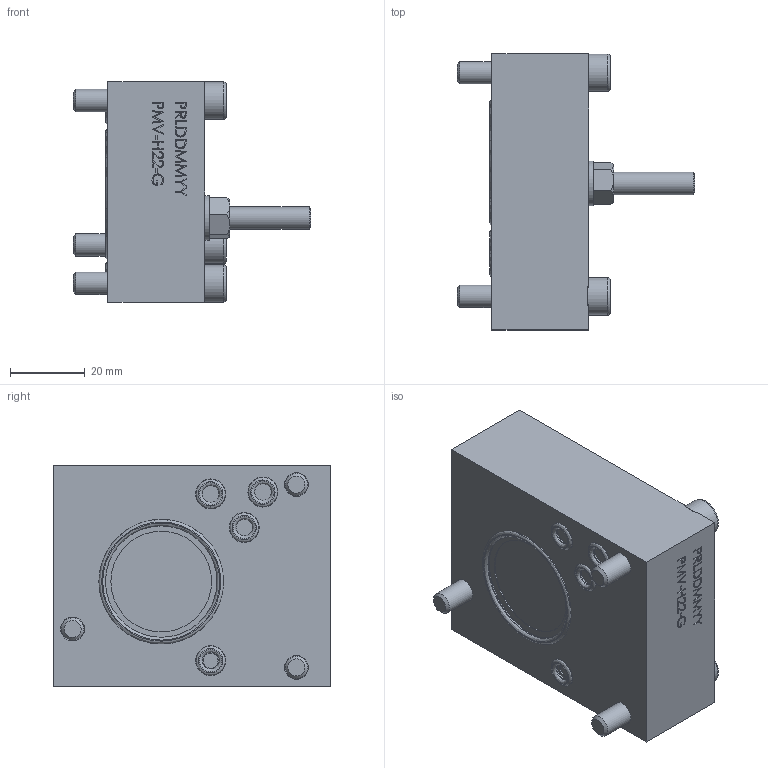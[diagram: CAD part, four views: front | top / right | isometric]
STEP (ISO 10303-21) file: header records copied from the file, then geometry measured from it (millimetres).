
FILE_DESCRIPTION (( 'STEP AP214' ), '1' );
FILE_NAME ('0304551.STEP', '2022-08-02T13:53:37', ( '' ), ( '' ), 'SwSTEP 2.0', 'SolidWorks 2020', '' );
FILE_SCHEMA (( 'AUTOMOTIVE_DESIGN' ));
Length unit declared in the file: millimetre
Products named in the file (8): 0074669_079.3140; 0304551; 0290158_001; 0074697_246.3136; 0294538_002; 0283782_008; 0290158_012; 0073842_153.2301
Assembly tree (12 placements, depth 2):
  0304551
    0294538_002
    0074697_246.3136  x3
    0290158_001  x4
    0290158_012
    0074669_079.3140
    0073842_153.2301
    0283782_008
Bounding box: 63.71 x 74 x 59 mm (x, y, z)
Volume: 116897.3 mm3; surface area: 22838.5 mm2
Topology: 13 solids, 13 shells, 484 faces, 1153 edges, 745 vertices
Faces by surface type: plane 295, bspline 88, cylinder 50, cone 45, torus 6
Full cylindrical faces by diameter (mm): 0.6 x1, 1.1 x1, 3.5 x1, 3.767 x1, 4 x2, 4.47 x4, 5 x2, 6 x4, 6.4 x3, 7.8 x4, 8.03 x4, 10 x3, 11.445 x2, 12 x1, 15 x1, 24 x2, 27 x1, 29.87 x1, 32.8 x1, 33.43 x1
Entity records: 16282 total; most frequent: CARTESIAN_POINT 6807, ORIENTED_EDGE 1872, DIRECTION 1617, EDGE_CURVE 936, VERTEX_POINT 653, LINE 631, VECTOR 631, EDGE_LOOP 551
